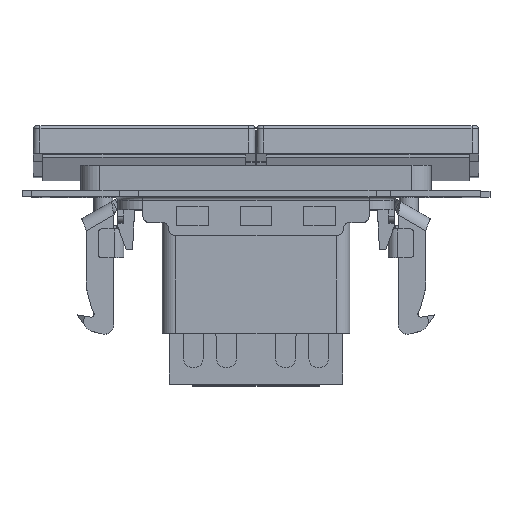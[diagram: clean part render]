
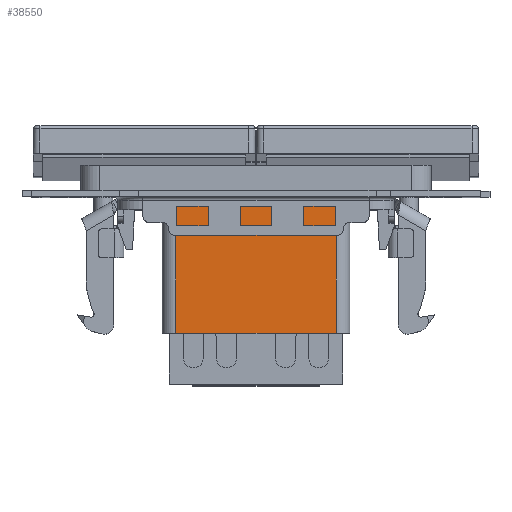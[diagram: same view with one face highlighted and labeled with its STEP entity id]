
A CAD part, top view. The second image highlights one B-rep face of the part: STEP entity #38550.
In plain terms, the highlighted planar face has unit normal (0, 0, 1).
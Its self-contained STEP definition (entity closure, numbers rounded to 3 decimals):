
#5852 = EDGE_CURVE ( 'NONE', #42134, #24988, #44753, .T. ) ;
#6697 = CARTESIAN_POINT ( 'NONE',  ( 1.418, 13.498, 2.129 ) ) ;
#6925 = LINE ( 'NONE', #51982, #11616 ) ;
#11616 = VECTOR ( 'NONE', #26713, 1000. ) ;
#11985 = ORIENTED_EDGE ( 'NONE', *, *, #62008, .T. ) ;
#12451 = CARTESIAN_POINT ( 'NONE',  ( 26.618, 13.498, 2.129 ) ) ;
#14619 = CARTESIAN_POINT ( 'NONE',  ( 26.618, -8.702, 2.129 ) ) ;
#16105 = EDGE_CURVE ( 'NONE', #42134, #30124, #60833, .T. ) ;
#17096 = VERTEX_POINT ( 'NONE', #37476 ) ;
#21507 = VECTOR ( 'NONE', #50204, 1000. ) ;
#22766 = DIRECTION ( 'NONE',  ( -1., 0., 0. ) ) ;
#24988 = VERTEX_POINT ( 'NONE', #14619 ) ;
#25275 = EDGE_LOOP ( 'NONE', ( #27404, #41088, #54418, #11985 ) ) ;
#26713 = DIRECTION ( 'NONE',  ( 1., 0., 0. ) ) ;
#27118 = DIRECTION ( 'NONE',  ( 0., 0., -1. ) ) ;
#27404 = ORIENTED_EDGE ( 'NONE', *, *, #5852, .F. ) ;
#30124 = VERTEX_POINT ( 'NONE', #42511 ) ;
#30361 = CARTESIAN_POINT ( 'NONE',  ( 26.618, 13.498, 2.129 ) ) ;
#34706 = AXIS2_PLACEMENT_3D ( 'NONE', #12451, #27118, #51449 ) ;
#37476 = CARTESIAN_POINT ( 'NONE',  ( 1.418, -8.702, 2.129 ) ) ;
#38406 = EDGE_CURVE ( 'NONE', #30124, #17096, #40888, .T. ) ;
#38550 = ADVANCED_FACE ( 'NONE', ( #56231 ), #41523, .F. ) ;
#40888 = LINE ( 'NONE', #6697, #55127 ) ;
#41088 = ORIENTED_EDGE ( 'NONE', *, *, #16105, .T. ) ;
#41523 = PLANE ( 'NONE',  #34706 ) ;
#42134 = VERTEX_POINT ( 'NONE', #48709 ) ;
#42511 = CARTESIAN_POINT ( 'NONE',  ( 1.418, 13.698, 2.129 ) ) ;
#44753 = LINE ( 'NONE', #30361, #21507 ) ;
#45778 = CARTESIAN_POINT ( 'NONE',  ( 26.618, 13.698, 2.129 ) ) ;
#48709 = CARTESIAN_POINT ( 'NONE',  ( 26.618, 13.698, 2.129 ) ) ;
#50204 = DIRECTION ( 'NONE',  ( 0., -1., 0. ) ) ;
#51449 = DIRECTION ( 'NONE',  ( -1., 0., 0. ) ) ;
#51982 = CARTESIAN_POINT ( 'NONE',  ( 26.618, -8.702, 2.129 ) ) ;
#54418 = ORIENTED_EDGE ( 'NONE', *, *, #38406, .T. ) ;
#55127 = VECTOR ( 'NONE', #59765, 1000. ) ;
#56231 = FACE_OUTER_BOUND ( 'NONE', #25275, .T. ) ;
#58269 = VECTOR ( 'NONE', #22766, 1000. ) ;
#59765 = DIRECTION ( 'NONE',  ( 0., -1., 0. ) ) ;
#60833 = LINE ( 'NONE', #45778, #58269 ) ;
#62008 = EDGE_CURVE ( 'NONE', #17096, #24988, #6925, .T. ) ;
